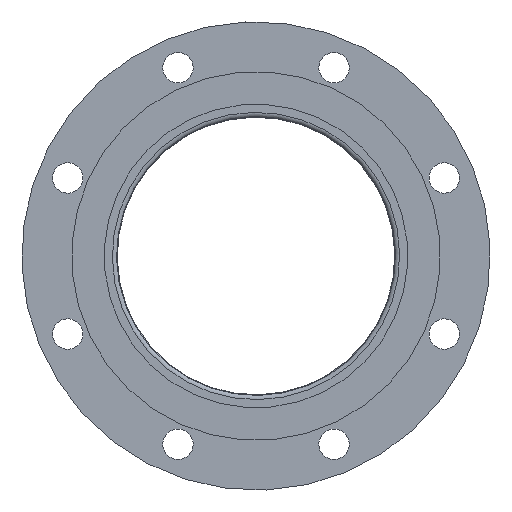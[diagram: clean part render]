
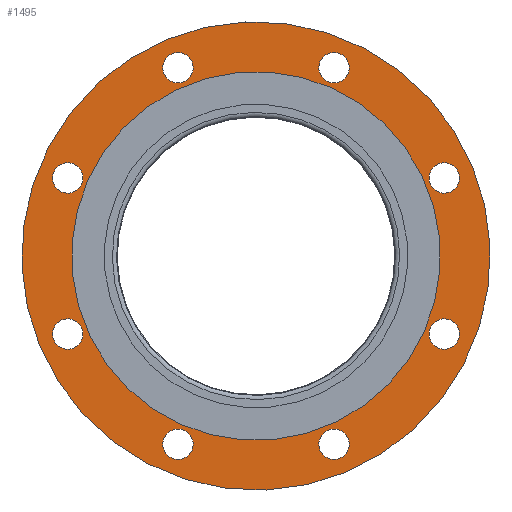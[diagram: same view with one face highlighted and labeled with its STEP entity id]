
A CAD part, front view. The second image highlights one B-rep face of the part: STEP entity #1495.
In plain terms, the highlighted planar face has unit normal (0, -1, 0) as drawn and (0, 0, -1) by its records, which use the part's own axes.
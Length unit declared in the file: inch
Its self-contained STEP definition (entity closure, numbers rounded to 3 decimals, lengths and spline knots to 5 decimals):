
#1356=CARTESIAN_POINT('',(5.0625,0.,0.0));
#1357=VERTEX_POINT('',#1356);
#1358=CARTESIAN_POINT('',(0.0,0.0,0.0));
#1359=DIRECTION('',(0.0,0.0,-1.0));
#1360=DIRECTION('',(-1.0,0.0,0.0));
#1361=AXIS2_PLACEMENT_3D('',#1358,#1359,#1360);
#1362=CIRCLE('',#1361,5.0625);
#1363=EDGE_CURVE('',#1357,#1357,#1362,.T.);
#1388=CARTESIAN_POINT('',(0.0,0.0,0.0));
#1389=DIRECTION('',(0.0,0.0,-1.0));
#1390=DIRECTION('',(-1.0,0.0,0.0));
#1391=AXIS2_PLACEMENT_3D('',#1388,#1389,#1390);
#1392=PLANE('',#1391);
#1393=CARTESIAN_POINT('',(6.75,0.,0.0));
#1394=VERTEX_POINT('',#1393);
#1395=CARTESIAN_POINT('',(0.0,0.0,0.0));
#1396=DIRECTION('',(0.0,0.0,-1.0));
#1397=DIRECTION('',(-1.0,0.0,0.0));
#1398=AXIS2_PLACEMENT_3D('',#1395,#1396,#1397);
#1399=CIRCLE('',#1398,6.75);
#1400=EDGE_CURVE('',#1394,#1394,#1399,.T.);
#1401=ORIENTED_EDGE('',*,*,#1400,.T.);
#1402=EDGE_LOOP('',(#1401));
#1403=FACE_OUTER_BOUND('',#1402,.T.);
#1404=CARTESIAN_POINT('',(-0.4375,5.875,0.0));
#1405=VERTEX_POINT('',#1404);
#1406=CARTESIAN_POINT('',(0.0,5.875,0.0));
#1407=DIRECTION('',(0.0,0.0,1.0));
#1408=DIRECTION('',(-1.0,0.0,0.0));
#1409=AXIS2_PLACEMENT_3D('',#1406,#1407,#1408);
#1410=CIRCLE('',#1409,0.4375);
#1411=EDGE_CURVE('',#1405,#1405,#1410,.T.);
#1412=ORIENTED_EDGE('',*,*,#1411,.T.);
#1413=EDGE_LOOP('',(#1412));
#1414=FACE_BOUND('',#1413,.T.);
#1415=CARTESIAN_POINT('',(-4.46361,3.84489,0.0));
#1416=VERTEX_POINT('',#1415);
#1417=CARTESIAN_POINT('',(-4.15425,4.15425,0.0));
#1418=DIRECTION('',(0.0,0.0,1.0));
#1419=DIRECTION('',(-0.707,-0.707,0.0));
#1420=AXIS2_PLACEMENT_3D('',#1417,#1418,#1419);
#1421=CIRCLE('',#1420,0.4375);
#1422=EDGE_CURVE('',#1416,#1416,#1421,.T.);
#1423=ORIENTED_EDGE('',*,*,#1422,.T.);
#1424=EDGE_LOOP('',(#1423));
#1425=FACE_BOUND('',#1424,.T.);
#1426=CARTESIAN_POINT('',(-5.875,-0.4375,0.0));
#1427=VERTEX_POINT('',#1426);
#1428=CARTESIAN_POINT('',(-5.875,0.0,0.0));
#1429=DIRECTION('',(0.0,0.0,1.0));
#1430=DIRECTION('',(0.0,-1.0,0.0));
#1431=AXIS2_PLACEMENT_3D('',#1428,#1429,#1430);
#1432=CIRCLE('',#1431,0.4375);
#1433=EDGE_CURVE('',#1427,#1427,#1432,.T.);
#1434=ORIENTED_EDGE('',*,*,#1433,.T.);
#1435=EDGE_LOOP('',(#1434));
#1436=FACE_BOUND('',#1435,.T.);
#1437=CARTESIAN_POINT('',(-3.84489,-4.46361,0.0));
#1438=VERTEX_POINT('',#1437);
#1439=CARTESIAN_POINT('',(-4.15425,-4.15425,0.0));
#1440=DIRECTION('',(0.0,0.0,1.0));
#1441=DIRECTION('',(0.707,-0.707,0.0));
#1442=AXIS2_PLACEMENT_3D('',#1439,#1440,#1441);
#1443=CIRCLE('',#1442,0.4375);
#1444=EDGE_CURVE('',#1438,#1438,#1443,.T.);
#1445=ORIENTED_EDGE('',*,*,#1444,.T.);
#1446=EDGE_LOOP('',(#1445));
#1447=FACE_BOUND('',#1446,.T.);
#1448=CARTESIAN_POINT('',(0.4375,-5.875,0.0));
#1449=VERTEX_POINT('',#1448);
#1450=CARTESIAN_POINT('',(0.,-5.875,0.0));
#1451=DIRECTION('',(0.0,0.0,1.0));
#1452=DIRECTION('',(1.0,0.0,0.0));
#1453=AXIS2_PLACEMENT_3D('',#1450,#1451,#1452);
#1454=CIRCLE('',#1453,0.4375);
#1455=EDGE_CURVE('',#1449,#1449,#1454,.T.);
#1456=ORIENTED_EDGE('',*,*,#1455,.T.);
#1457=EDGE_LOOP('',(#1456));
#1458=FACE_BOUND('',#1457,.T.);
#1459=CARTESIAN_POINT('',(4.46361,-3.84489,0.0));
#1460=VERTEX_POINT('',#1459);
#1461=CARTESIAN_POINT('',(4.15425,-4.15425,0.0));
#1462=DIRECTION('',(0.0,0.0,1.0));
#1463=DIRECTION('',(0.707,0.707,0.0));
#1464=AXIS2_PLACEMENT_3D('',#1461,#1462,#1463);
#1465=CIRCLE('',#1464,0.4375);
#1466=EDGE_CURVE('',#1460,#1460,#1465,.T.);
#1467=ORIENTED_EDGE('',*,*,#1466,.T.);
#1468=EDGE_LOOP('',(#1467));
#1469=FACE_BOUND('',#1468,.T.);
#1470=CARTESIAN_POINT('',(5.875,0.4375,0.0));
#1471=VERTEX_POINT('',#1470);
#1472=CARTESIAN_POINT('',(5.875,0.,0.0));
#1473=DIRECTION('',(0.0,0.0,1.0));
#1474=DIRECTION('',(0.0,1.0,0.0));
#1475=AXIS2_PLACEMENT_3D('',#1472,#1473,#1474);
#1476=CIRCLE('',#1475,0.4375);
#1477=EDGE_CURVE('',#1471,#1471,#1476,.T.);
#1478=ORIENTED_EDGE('',*,*,#1477,.T.);
#1479=EDGE_LOOP('',(#1478));
#1480=FACE_BOUND('',#1479,.T.);
#1481=CARTESIAN_POINT('',(3.84489,4.46361,0.0));
#1482=VERTEX_POINT('',#1481);
#1483=CARTESIAN_POINT('',(4.15425,4.15425,0.0));
#1484=DIRECTION('',(0.0,0.0,1.0));
#1485=DIRECTION('',(-0.707,0.707,0.0));
#1486=AXIS2_PLACEMENT_3D('',#1483,#1484,#1485);
#1487=CIRCLE('',#1486,0.4375);
#1488=EDGE_CURVE('',#1482,#1482,#1487,.T.);
#1489=ORIENTED_EDGE('',*,*,#1488,.T.);
#1490=EDGE_LOOP('',(#1489));
#1491=FACE_BOUND('',#1490,.T.);
#1492=ORIENTED_EDGE('',*,*,#1363,.F.);
#1493=EDGE_LOOP('',(#1492));
#1494=FACE_BOUND('',#1493,.T.);
#1495=ADVANCED_FACE('',(#1403,#1414,#1425,#1436,#1447,#1458,#1469,#1480,#1491,#1494),#1392,.T.);
